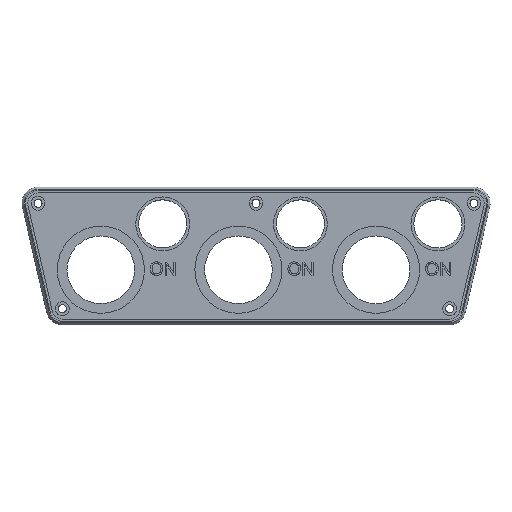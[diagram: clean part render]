
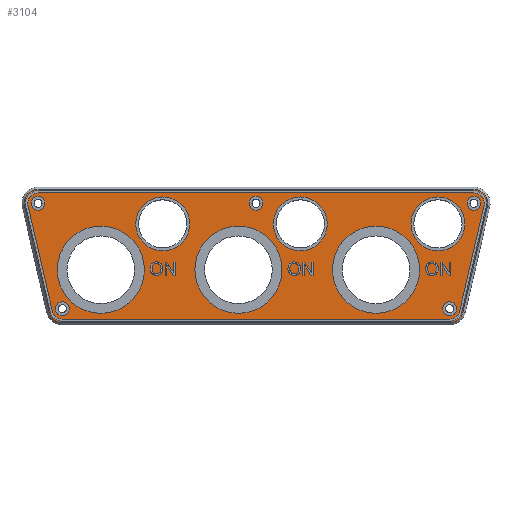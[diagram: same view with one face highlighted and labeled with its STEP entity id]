
A CAD part, top view. The second image highlights one B-rep face of the part: STEP entity #3104.
In plain terms, the highlighted planar face has unit normal (0, 0, 1).
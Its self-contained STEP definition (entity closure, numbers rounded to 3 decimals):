
#259=FACE_BOUND('',#589,.T.);
#260=FACE_BOUND('',#590,.T.);
#261=FACE_BOUND('',#591,.T.);
#262=FACE_BOUND('',#592,.T.);
#263=FACE_BOUND('',#593,.T.);
#264=FACE_BOUND('',#594,.T.);
#265=FACE_BOUND('',#595,.T.);
#266=FACE_BOUND('',#596,.T.);
#267=FACE_BOUND('',#597,.T.);
#268=FACE_BOUND('',#598,.T.);
#269=FACE_BOUND('',#599,.T.);
#290=PLANE('',#3350);
#382=FACE_OUTER_BOUND('',#588,.T.);
#588=EDGE_LOOP('',(#2229,#2230,#2231,#2232,#2233,#2234,#2235,#2236));
#589=EDGE_LOOP('',(#2237));
#590=EDGE_LOOP('',(#2238));
#591=EDGE_LOOP('',(#2239));
#592=EDGE_LOOP('',(#2240));
#593=EDGE_LOOP('',(#2241));
#594=EDGE_LOOP('',(#2242));
#595=EDGE_LOOP('',(#2243));
#596=EDGE_LOOP('',(#2244));
#597=EDGE_LOOP('',(#2245));
#598=EDGE_LOOP('',(#2246));
#599=EDGE_LOOP('',(#2247));
#801=LINE('',#4320,#1056);
#802=LINE('',#4324,#1057);
#803=LINE('',#4328,#1058);
#804=LINE('',#4332,#1059);
#1056=VECTOR('',#3646,10.);
#1057=VECTOR('',#3649,10.);
#1058=VECTOR('',#3652,10.);
#1059=VECTOR('',#3655,10.);
#1317=CIRCLE('',#3331,3.);
#1319=CIRCLE('',#3335,3.);
#1321=CIRCLE('',#3339,3.);
#1323=CIRCLE('',#3343,3.);
#1325=CIRCLE('',#3347,3.);
#1327=CIRCLE('',#3351,6.);
#1328=CIRCLE('',#3352,6.);
#1329=CIRCLE('',#3353,6.);
#1330=CIRCLE('',#3354,6.);
#1331=CIRCLE('',#3355,19.);
#1332=CIRCLE('',#3356,11.75);
#1333=CIRCLE('',#3357,11.75);
#1334=CIRCLE('',#3358,19.);
#1335=CIRCLE('',#3359,11.75);
#1336=CIRCLE('',#3360,19.);
#1408=VERTEX_POINT('',#4283);
#1410=VERTEX_POINT('',#4290);
#1412=VERTEX_POINT('',#4297);
#1414=VERTEX_POINT('',#4304);
#1416=VERTEX_POINT('',#4311);
#1418=VERTEX_POINT('',#4318);
#1419=VERTEX_POINT('',#4319);
#1420=VERTEX_POINT('',#4321);
#1421=VERTEX_POINT('',#4323);
#1422=VERTEX_POINT('',#4325);
#1423=VERTEX_POINT('',#4327);
#1424=VERTEX_POINT('',#4329);
#1425=VERTEX_POINT('',#4331);
#1426=VERTEX_POINT('',#4334);
#1427=VERTEX_POINT('',#4336);
#1428=VERTEX_POINT('',#4338);
#1429=VERTEX_POINT('',#4340);
#1430=VERTEX_POINT('',#4342);
#1431=VERTEX_POINT('',#4344);
#1717=EDGE_CURVE('',#1408,#1408,#1317,.T.);
#1720=EDGE_CURVE('',#1410,#1410,#1319,.T.);
#1723=EDGE_CURVE('',#1412,#1412,#1321,.T.);
#1726=EDGE_CURVE('',#1414,#1414,#1323,.T.);
#1729=EDGE_CURVE('',#1416,#1416,#1325,.T.);
#1732=EDGE_CURVE('',#1418,#1419,#801,.T.);
#1733=EDGE_CURVE('',#1420,#1418,#1327,.T.);
#1734=EDGE_CURVE('',#1421,#1420,#802,.T.);
#1735=EDGE_CURVE('',#1422,#1421,#1328,.T.);
#1736=EDGE_CURVE('',#1423,#1422,#803,.T.);
#1737=EDGE_CURVE('',#1424,#1423,#1329,.T.);
#1738=EDGE_CURVE('',#1425,#1424,#804,.T.);
#1739=EDGE_CURVE('',#1419,#1425,#1330,.T.);
#1740=EDGE_CURVE('',#1426,#1426,#1331,.T.);
#1741=EDGE_CURVE('',#1427,#1427,#1332,.T.);
#1742=EDGE_CURVE('',#1428,#1428,#1333,.T.);
#1743=EDGE_CURVE('',#1429,#1429,#1334,.T.);
#1744=EDGE_CURVE('',#1430,#1430,#1335,.T.);
#1745=EDGE_CURVE('',#1431,#1431,#1336,.T.);
#2229=ORIENTED_EDGE('',*,*,#1732,.F.);
#2230=ORIENTED_EDGE('',*,*,#1733,.F.);
#2231=ORIENTED_EDGE('',*,*,#1734,.F.);
#2232=ORIENTED_EDGE('',*,*,#1735,.F.);
#2233=ORIENTED_EDGE('',*,*,#1736,.F.);
#2234=ORIENTED_EDGE('',*,*,#1737,.F.);
#2235=ORIENTED_EDGE('',*,*,#1738,.F.);
#2236=ORIENTED_EDGE('',*,*,#1739,.F.);
#2237=ORIENTED_EDGE('',*,*,#1740,.T.);
#2238=ORIENTED_EDGE('',*,*,#1741,.T.);
#2239=ORIENTED_EDGE('',*,*,#1742,.T.);
#2240=ORIENTED_EDGE('',*,*,#1743,.T.);
#2241=ORIENTED_EDGE('',*,*,#1744,.T.);
#2242=ORIENTED_EDGE('',*,*,#1745,.T.);
#2243=ORIENTED_EDGE('',*,*,#1729,.T.);
#2244=ORIENTED_EDGE('',*,*,#1726,.T.);
#2245=ORIENTED_EDGE('',*,*,#1723,.T.);
#2246=ORIENTED_EDGE('',*,*,#1720,.T.);
#2247=ORIENTED_EDGE('',*,*,#1717,.T.);
#3104=ADVANCED_FACE('',(#382,#259,#260,#261,#262,#263,#264,#265,#266,#267,
#268,#269),#290,.T.);
#3331=AXIS2_PLACEMENT_3D('',#4284,#3601,#3602);
#3335=AXIS2_PLACEMENT_3D('',#4291,#3610,#3611);
#3339=AXIS2_PLACEMENT_3D('',#4298,#3619,#3620);
#3343=AXIS2_PLACEMENT_3D('',#4305,#3628,#3629);
#3347=AXIS2_PLACEMENT_3D('',#4312,#3637,#3638);
#3350=AXIS2_PLACEMENT_3D('',#4317,#3644,#3645);
#3351=AXIS2_PLACEMENT_3D('',#4322,#3647,#3648);
#3352=AXIS2_PLACEMENT_3D('',#4326,#3650,#3651);
#3353=AXIS2_PLACEMENT_3D('',#4330,#3653,#3654);
#3354=AXIS2_PLACEMENT_3D('',#4333,#3656,#3657);
#3355=AXIS2_PLACEMENT_3D('',#4335,#3658,#3659);
#3356=AXIS2_PLACEMENT_3D('',#4337,#3660,#3661);
#3357=AXIS2_PLACEMENT_3D('',#4339,#3662,#3663);
#3358=AXIS2_PLACEMENT_3D('',#4341,#3664,#3665);
#3359=AXIS2_PLACEMENT_3D('',#4343,#3666,#3667);
#3360=AXIS2_PLACEMENT_3D('',#4345,#3668,#3669);
#3601=DIRECTION('center_axis',(0.,0.,-1.));
#3602=DIRECTION('ref_axis',(-1.,0.,0.));
#3610=DIRECTION('center_axis',(0.,0.,-1.));
#3611=DIRECTION('ref_axis',(-1.,0.,0.));
#3619=DIRECTION('center_axis',(0.,0.,-1.));
#3620=DIRECTION('ref_axis',(-1.,0.,0.));
#3628=DIRECTION('center_axis',(0.,0.,-1.));
#3629=DIRECTION('ref_axis',(-1.,0.,0.));
#3637=DIRECTION('center_axis',(0.,0.,-1.));
#3638=DIRECTION('ref_axis',(-1.,0.,0.));
#3644=DIRECTION('center_axis',(0.,0.,1.));
#3645=DIRECTION('ref_axis',(1.,0.,0.));
#3646=DIRECTION('',(-0.225,-0.974,0.));
#3647=DIRECTION('center_axis',(0.,0.,-1.));
#3648=DIRECTION('ref_axis',(0.783,0.623,0.));
#3649=DIRECTION('',(1.,0.,0.));
#3650=DIRECTION('center_axis',(0.,0.,-1.));
#3651=DIRECTION('ref_axis',(-0.783,0.623,0.));
#3652=DIRECTION('',(-0.225,0.974,0.));
#3653=DIRECTION('center_axis',(0.,0.,-1.));
#3654=DIRECTION('ref_axis',(-0.623,-0.783,0.));
#3655=DIRECTION('',(-1.,0.,0.));
#3656=DIRECTION('center_axis',(0.,0.,-1.));
#3657=DIRECTION('ref_axis',(0.623,-0.783,0.));
#3658=DIRECTION('center_axis',(0.,0.,-1.));
#3659=DIRECTION('ref_axis',(1.,0.,0.));
#3660=DIRECTION('center_axis',(0.,0.,-1.));
#3661=DIRECTION('ref_axis',(1.,0.,0.));
#3662=DIRECTION('center_axis',(0.,0.,-1.));
#3663=DIRECTION('ref_axis',(1.,0.,0.));
#3664=DIRECTION('center_axis',(0.,0.,-1.));
#3665=DIRECTION('ref_axis',(1.,0.,0.));
#3666=DIRECTION('center_axis',(0.,0.,-1.));
#3667=DIRECTION('ref_axis',(1.,0.,0.));
#3668=DIRECTION('center_axis',(0.,0.,-1.));
#3669=DIRECTION('ref_axis',(1.,0.,0.));
#4283=CARTESIAN_POINT('',(177.432,7.,0.));
#4284=CARTESIAN_POINT('Origin',(174.432,7.,0.));
#4290=CARTESIAN_POINT('',(8.568,7.,0.));
#4291=CARTESIAN_POINT('Origin',(5.568,7.,0.));
#4297=CARTESIAN_POINT('',(188.052,53.,0.));
#4298=CARTESIAN_POINT('Origin',(185.052,53.,0.));
#4304=CARTESIAN_POINT('',(-2.052,53.,0.));
#4305=CARTESIAN_POINT('Origin',(-5.052,53.,0.));
#4311=CARTESIAN_POINT('',(93.,53.,0.));
#4312=CARTESIAN_POINT('Origin',(90.,53.,0.));
#4317=CARTESIAN_POINT('Origin',(90.,30.,0.));
#4318=CARTESIAN_POINT('',(190.898,51.65,0.));
#4319=CARTESIAN_POINT('',(180.278,5.65,0.));
#4320=CARTESIAN_POINT('',(186.962,34.603,0.));
#4321=CARTESIAN_POINT('',(185.052,59.,0.));
#4322=CARTESIAN_POINT('Origin',(185.052,53.,0.));
#4323=CARTESIAN_POINT('',(-5.052,59.,0.));
#4324=CARTESIAN_POINT('',(38.074,59.,0.));
#4325=CARTESIAN_POINT('',(-10.898,51.65,0.));
#4326=CARTESIAN_POINT('Origin',(-5.052,53.,0.));
#4327=CARTESIAN_POINT('',(-0.278,5.65,0.));
#4328=CARTESIAN_POINT('',(-0.036,4.603,0.));
#4329=CARTESIAN_POINT('',(5.568,1.,0.));
#4330=CARTESIAN_POINT('Origin',(5.568,7.,0.));
#4331=CARTESIAN_POINT('',(174.432,1.,0.));
#4332=CARTESIAN_POINT('',(135.,1.,0.));
#4333=CARTESIAN_POINT('Origin',(174.432,7.,0.));
#4334=CARTESIAN_POINT('',(3.33,24.,0.));
#4335=CARTESIAN_POINT('Origin',(22.33,24.,0.));
#4336=CARTESIAN_POINT('',(37.58,44.,0.));
#4337=CARTESIAN_POINT('Origin',(49.33,44.,0.));
#4338=CARTESIAN_POINT('',(97.58,44.,0.));
#4339=CARTESIAN_POINT('Origin',(109.33,44.,0.));
#4340=CARTESIAN_POINT('',(123.33,24.,0.));
#4341=CARTESIAN_POINT('Origin',(142.33,24.,0.));
#4342=CARTESIAN_POINT('',(157.58,44.,0.));
#4343=CARTESIAN_POINT('Origin',(169.33,44.,0.));
#4344=CARTESIAN_POINT('',(63.33,24.,0.));
#4345=CARTESIAN_POINT('Origin',(82.33,24.,0.));
